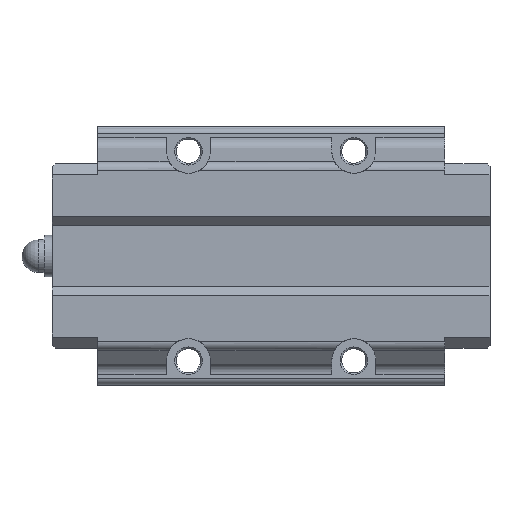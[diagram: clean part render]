
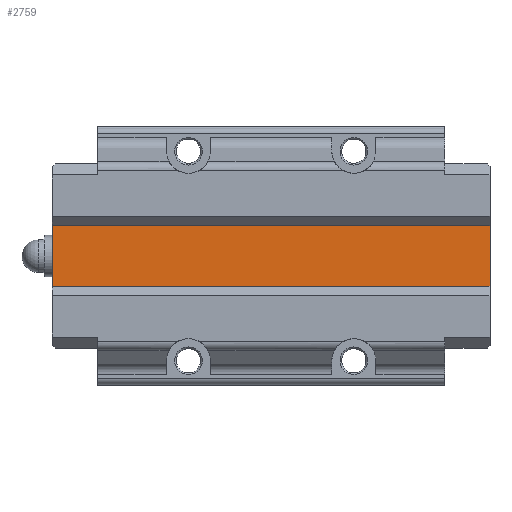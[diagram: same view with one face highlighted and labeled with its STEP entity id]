
A CAD part, front view. The second image highlights one B-rep face of the part: STEP entity #2759.
In plain terms, the highlighted planar face has unit normal (0, -1, 0).
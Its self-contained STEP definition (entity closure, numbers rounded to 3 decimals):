
#61=LINE('',#3934,#323);
#110=LINE('',#4069,#372);
#297=LINE('',#4686,#559);
#298=LINE('',#4688,#560);
#323=VECTOR('',#3142,1000.);
#372=VECTOR('',#3243,1000.);
#559=VECTOR('',#3776,1000.);
#560=VECTOR('',#3779,1000.);
#654=PLANE('',#3041);
#1402=ORIENTED_EDGE('',*,*,#1598,.F.);
#1403=ORIENTED_EDGE('',*,*,#1871,.F.);
#1404=ORIENTED_EDGE('',*,*,#1530,.T.);
#1405=ORIENTED_EDGE('',*,*,#1872,.T.);
#1530=EDGE_CURVE('',#1919,#1918,#61,.T.);
#1598=EDGE_CURVE('',#1978,#1979,#110,.T.);
#1871=EDGE_CURVE('',#1919,#1978,#297,.T.);
#1872=EDGE_CURVE('',#1918,#1979,#298,.T.);
#1918=VERTEX_POINT('',#3933);
#1919=VERTEX_POINT('',#3935);
#1978=VERTEX_POINT('',#4068);
#1979=VERTEX_POINT('',#4070);
#2413=EDGE_LOOP('',(#1402,#1403,#1404,#1405));
#2601=FACE_BOUND('',#2413,.T.);
#2759=ADVANCED_FACE('',(#2601),#654,.T.);
#3041=AXIS2_PLACEMENT_3D('',#4687,#3777,#3778);
#3142=DIRECTION('',(0.,0.,1.));
#3243=DIRECTION('',(0.,0.,1.));
#3776=DIRECTION('',(-1.,0.,0.));
#3777=DIRECTION('',(0.,-1.,0.));
#3778=DIRECTION('',(0.,0.,-1.));
#3779=DIRECTION('',(-1.,0.,0.));
#3933=CARTESIAN_POINT('',(39.7,10.,5.6));
#3934=CARTESIAN_POINT('',(39.7,10.,-5.6));
#3935=CARTESIAN_POINT('',(39.7,10.,-5.6));
#4068=CARTESIAN_POINT('',(-39.7,10.,-5.6));
#4069=CARTESIAN_POINT('',(-39.7,10.,-5.6));
#4070=CARTESIAN_POINT('',(-39.7,10.,5.6));
#4686=CARTESIAN_POINT('',(39.7,10.,-5.6));
#4687=CARTESIAN_POINT('',(39.7,10.,-5.6));
#4688=CARTESIAN_POINT('',(39.7,10.,5.6));
